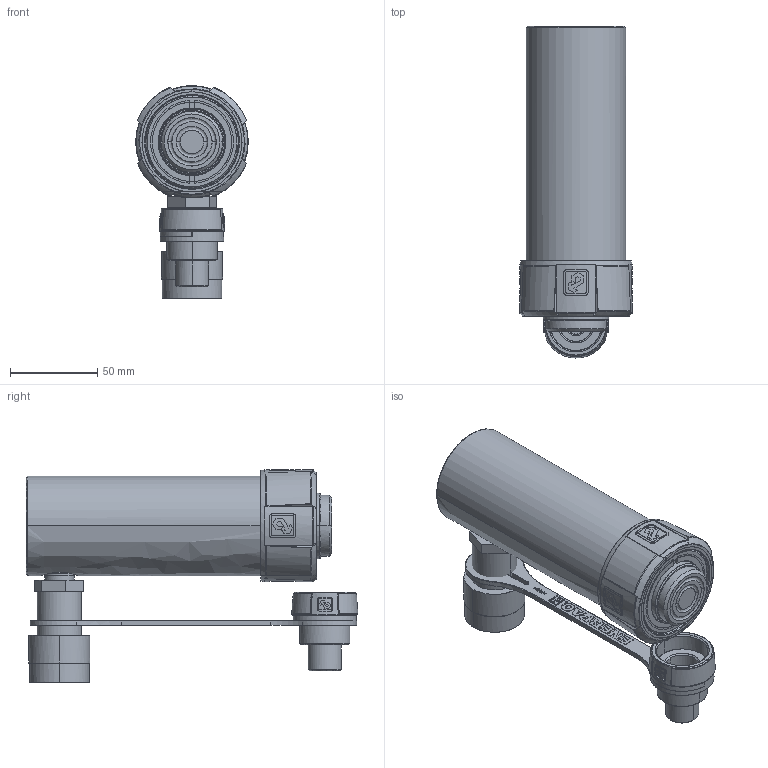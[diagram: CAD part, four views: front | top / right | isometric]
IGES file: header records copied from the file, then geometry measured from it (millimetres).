
Start section:  PTC IGES file: rc104.igs
Global section: file name: rc104.igs; native system: Creo Parametric by PTC Inc.; preprocessor: 2017020; author: john.vanroy; organization: Unknown; date: 20180829.111550; units: millimetre
Bounding box: 64.45 x 190.43 x 122.01 mm (x, y, z)
Surface area: 101164.7 mm2 (no closed solid volume)
Topology: 0 solids, 0 shells, 636 faces, 3729 edges, 3721 vertices
Faces by surface type: bspline 328, revolution 285, extrusion 23
